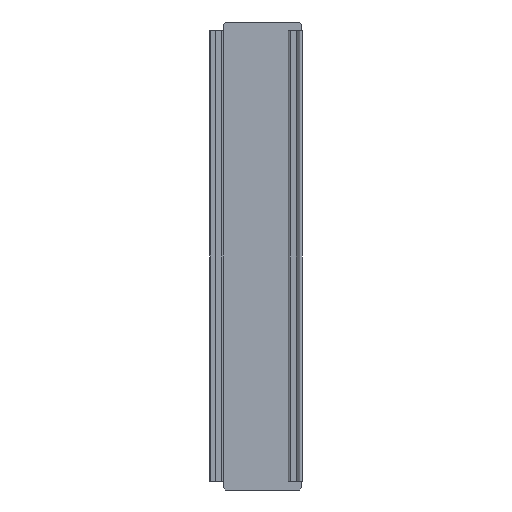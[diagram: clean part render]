
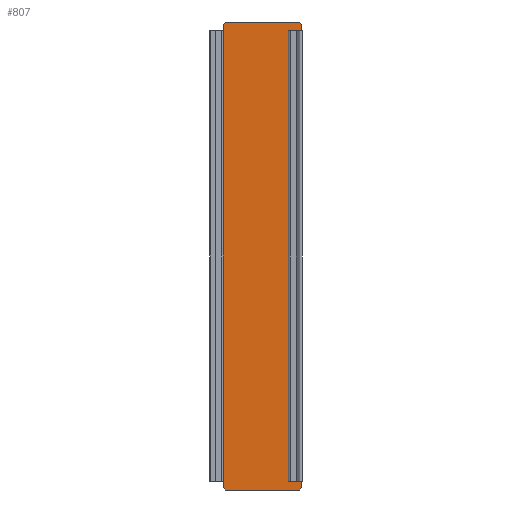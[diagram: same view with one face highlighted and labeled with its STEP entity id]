
A CAD part, front view. The second image highlights one B-rep face of the part: STEP entity #807.
In plain terms, the highlighted planar face has unit normal (0, -1, 0).
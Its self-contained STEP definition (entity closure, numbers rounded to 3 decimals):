
#7 = CARTESIAN_POINT ( 'NONE',  ( 0., -1., -583.5 ) ) ;
#60 = CARTESIAN_POINT ( 'NONE',  ( 113.95, -1., -11. ) ) ;
#103 = CARTESIAN_POINT ( 'NONE',  ( 347.475, -1., -236.025 ) ) ;
#105 = CARTESIAN_POINT ( 'NONE',  ( -282.247, -1., -301.253 ) ) ;
#119 = ORIENTED_EDGE ( 'NONE', *, *, #1627, .F. ) ;
#121 = VERTEX_POINT ( 'NONE', #488 ) ;
#154 = EDGE_CURVE ( 'NONE', #257, #1278, #1496, .T. ) ;
#177 = CARTESIAN_POINT ( 'NONE',  ( 0., -1., 0. ) ) ;
#183 = CARTESIAN_POINT ( 'NONE',  ( 16.506, -1., -583.5 ) ) ;
#192 = VECTOR ( 'NONE', #318, 1000. ) ;
#198 = CARTESIAN_POINT ( 'NONE',  ( 16.506, -1., -583.5 ) ) ;
#206 = CARTESIAN_POINT ( 'NONE',  ( 113.95, -1., -11. ) ) ;
#231 = FACE_OUTER_BOUND ( 'NONE', #970, .T. ) ;
#239 = LINE ( 'NONE', #206, #518 ) ;
#242 = VERTEX_POINT ( 'NONE', #377 ) ;
#255 = ORIENTED_EDGE ( 'NONE', *, *, #325, .F. ) ;
#257 = VERTEX_POINT ( 'NONE', #514 ) ;
#318 = DIRECTION ( 'NONE',  ( 0.707, 0., 0.707 ) ) ;
#319 = VERTEX_POINT ( 'NONE', #870 ) ;
#322 = CARTESIAN_POINT ( 'NONE',  ( 16.506, -1., -2.5 ) ) ;
#325 = EDGE_CURVE ( 'NONE', #319, #1860, #1416, .T. ) ;
#344 = DIRECTION ( 'NONE',  ( 1., 0., 0. ) ) ;
#348 = ORIENTED_EDGE ( 'NONE', *, *, #154, .F. ) ;
#352 = LINE ( 'NONE', #183, #1702 ) ;
#377 = CARTESIAN_POINT ( 'NONE',  ( 113.95, -1., -572.5 ) ) ;
#397 = LINE ( 'NONE', #674, #1022 ) ;
#426 = ORIENTED_EDGE ( 'NONE', *, *, #1153, .F. ) ;
#462 = EDGE_CURVE ( 'NONE', #121, #1860, #1653, .T. ) ;
#467 = LINE ( 'NONE', #1629, #192 ) ;
#488 = CARTESIAN_POINT ( 'NONE',  ( 16.506, -1., -581. ) ) ;
#512 = DIRECTION ( 'NONE',  ( 0., 0., 1. ) ) ;
#514 = CARTESIAN_POINT ( 'NONE',  ( 16.506, -1., -572.5 ) ) ;
#515 = EDGE_CURVE ( 'NONE', #1719, #682, #1637, .T. ) ;
#518 = VECTOR ( 'NONE', #667, 1000. ) ;
#535 = EDGE_CURVE ( 'NONE', #319, #1514, #467, .T. ) ;
#539 = DIRECTION ( 'NONE',  ( 0., -1., 0. ) ) ;
#575 = ORIENTED_EDGE ( 'NONE', *, *, #515, .F. ) ;
#578 = VERTEX_POINT ( 'NONE', #1021 ) ;
#584 = VECTOR ( 'NONE', #512, 1000. ) ;
#591 = CARTESIAN_POINT ( 'NONE',  ( 19.006, -1., 0. ) ) ;
#608 = DIRECTION ( 'NONE',  ( 0.707, 0., -0.707 ) ) ;
#632 = ORIENTED_EDGE ( 'NONE', *, *, #462, .T. ) ;
#660 = ORIENTED_EDGE ( 'NONE', *, *, #768, .T. ) ;
#667 = DIRECTION ( 'NONE',  ( 0., 0., -1. ) ) ;
#674 = CARTESIAN_POINT ( 'NONE',  ( 113.95, -1., -583.5 ) ) ;
#682 = VERTEX_POINT ( 'NONE', #1511 ) ;
#695 = VECTOR ( 'NONE', #1054, 1000. ) ;
#702 = ORIENTED_EDGE ( 'NONE', *, *, #1651, .F. ) ;
#715 = ORIENTED_EDGE ( 'NONE', *, *, #1191, .F. ) ;
#746 = ORIENTED_EDGE ( 'NONE', *, *, #1409, .T. ) ;
#764 = EDGE_CURVE ( 'NONE', #121, #257, #352, .T. ) ;
#768 = EDGE_CURVE ( 'NONE', #578, #682, #1551, .T. ) ;
#784 = VECTOR ( 'NONE', #1712, 1000. ) ;
#792 = CARTESIAN_POINT ( 'NONE',  ( 113.95, -1., -583.5 ) ) ;
#794 = LINE ( 'NONE', #1812, #584 ) ;
#807 = ADVANCED_FACE ( 'NONE', ( #231 ), #1232, .T. ) ;
#809 = CARTESIAN_POINT ( 'NONE',  ( 0., -1., -583.5 ) ) ;
#829 = CARTESIAN_POINT ( 'NONE',  ( 16.506, -1., -11. ) ) ;
#863 = DIRECTION ( 'NONE',  ( -1., 0., 0. ) ) ;
#870 = CARTESIAN_POINT ( 'NONE',  ( 111.45, -1., -583.5 ) ) ;
#878 = ORIENTED_EDGE ( 'NONE', *, *, #535, .T. ) ;
#903 = AXIS2_PLACEMENT_3D ( 'NONE', #809, #539, #1528 ) ;
#911 = DIRECTION ( 'NONE',  ( 0., 0., 1. ) ) ;
#934 = VECTOR ( 'NONE', #939, 1000. ) ;
#939 = DIRECTION ( 'NONE',  ( -0.707, 0., 0.707 ) ) ;
#944 = LINE ( 'NONE', #792, #1575 ) ;
#959 = VECTOR ( 'NONE', #344, 1000. ) ;
#960 = DIRECTION ( 'NONE',  ( 0., 0., -1. ) ) ;
#970 = EDGE_LOOP ( 'NONE', ( #575, #746, #702, #348, #1498, #632, #255, #878, #426, #119, #715, #660 ) ) ;
#1021 = CARTESIAN_POINT ( 'NONE',  ( 113.95, -1., -2.5 ) ) ;
#1022 = VECTOR ( 'NONE', #960, 1000. ) ;
#1054 = DIRECTION ( 'NONE',  ( 0., 0., 1. ) ) ;
#1144 = VECTOR ( 'NONE', #863, 1000. ) ;
#1153 = EDGE_CURVE ( 'NONE', #242, #1514, #944, .T. ) ;
#1191 = EDGE_CURVE ( 'NONE', #578, #1666, #397, .T. ) ;
#1232 = PLANE ( 'NONE',  #903 ) ;
#1278 = VERTEX_POINT ( 'NONE', #829 ) ;
#1297 = CARTESIAN_POINT ( 'NONE',  ( 113.95, -1., -581. ) ) ;
#1322 = CARTESIAN_POINT ( 'NONE',  ( 9.503, -1., -573.997 ) ) ;
#1409 = EDGE_CURVE ( 'NONE', #1719, #1789, #1553, .T. ) ;
#1416 = LINE ( 'NONE', #7, #1144 ) ;
#1432 = CARTESIAN_POINT ( 'NONE',  ( 19.006, -1., -583.5 ) ) ;
#1496 = LINE ( 'NONE', #198, #695 ) ;
#1498 = ORIENTED_EDGE ( 'NONE', *, *, #764, .F. ) ;
#1511 = CARTESIAN_POINT ( 'NONE',  ( 111.45, -1., 0. ) ) ;
#1514 = VERTEX_POINT ( 'NONE', #1297 ) ;
#1528 = DIRECTION ( 'NONE',  ( 0., 0., -1. ) ) ;
#1551 = LINE ( 'NONE', #103, #934 ) ;
#1553 = LINE ( 'NONE', #105, #784 ) ;
#1575 = VECTOR ( 'NONE', #1839, 1000. ) ;
#1627 = EDGE_CURVE ( 'NONE', #1666, #242, #239, .T. ) ;
#1629 = CARTESIAN_POINT ( 'NONE',  ( 55.725, -1., -639.225 ) ) ;
#1637 = LINE ( 'NONE', #177, #959 ) ;
#1651 = EDGE_CURVE ( 'NONE', #1278, #1789, #794, .T. ) ;
#1653 = LINE ( 'NONE', #1322, #1825 ) ;
#1666 = VERTEX_POINT ( 'NONE', #60 ) ;
#1702 = VECTOR ( 'NONE', #911, 1000. ) ;
#1712 = DIRECTION ( 'NONE',  ( -0.707, 0., -0.707 ) ) ;
#1719 = VERTEX_POINT ( 'NONE', #591 ) ;
#1789 = VERTEX_POINT ( 'NONE', #322 ) ;
#1812 = CARTESIAN_POINT ( 'NONE',  ( 16.506, -1., 291.753 ) ) ;
#1825 = VECTOR ( 'NONE', #608, 1000. ) ;
#1839 = DIRECTION ( 'NONE',  ( 0., 0., -1. ) ) ;
#1860 = VERTEX_POINT ( 'NONE', #1432 ) ;
